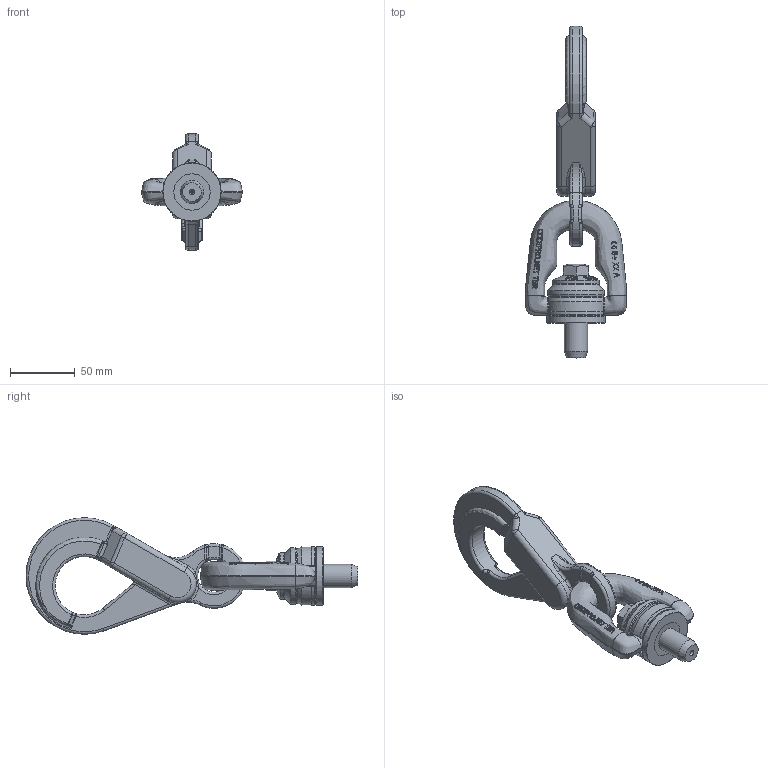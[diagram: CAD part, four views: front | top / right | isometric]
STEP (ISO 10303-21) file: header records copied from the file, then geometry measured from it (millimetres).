
FILE_DESCRIPTION(/* description */ (''),/* implementation_level */ '2;1');
FILE_NAME(/* name */ 'W:\CODIPRO\DOCUMENTS\Plans A NE PAS DIFFUSER !!!\Inventor\Standard Inventor\Produit Fini Inventor\DSH\Fichiers 3D\DSH M18.stp',/* time_stamp */ '2017-10-06T09:10:06+02:00',/* author */ ('rklenes'),/* organization */ (''),/* preprocessor_version */ 'ST-DEVELOPER v16.5',/* originating_system */ 'Autodesk Inventor 2017',/* authorisation */ '');
FILE_SCHEMA (('AUTOMOTIVE_DESIGN { 1 0 10303 214 3 1 1 }'));
Length unit declared in the file: millimetre
Products named in the file (6): DSH M18; DRB_B2B; TSM_AO2C; DHH_S2; DRE_D2M18A; DRA_M18X57
Assembly tree (5 placements, depth 2):
  DSH M18
    DRB_B2B
    TSM_AO2C
    DHH_S2
    DRE_D2M18A
    DRA_M18X57
Bounding box: 77.89 x 256.25 x 90 mm (x, y, z)
Volume: 240262.2 mm3; surface area: 58523.1 mm2
Topology: 5 solids, 5 shells, 719 faces, 1832 edges, 1138 vertices
Faces by surface type: plane 277, bspline 263, cylinder 80, torus 47, cone 35, sphere 17
Full cylindrical faces by diameter (mm): 2 x1, 14 x2, 18 x4, 18.2 x1, 22.6 x2, 23 x2, 25 x1, 32 x1, 36 x1, 44 x1, 45 x1
Entity records: 33884 total; most frequent: CARTESIAN_POINT 18568, ORIENTED_EDGE 3530, DIRECTION 2436, EDGE_CURVE 1765, VERTEX_POINT 1132, AXIS2_PLACEMENT_3D 931, EDGE_LOOP 803, FACE_OUTER_BOUND 719
